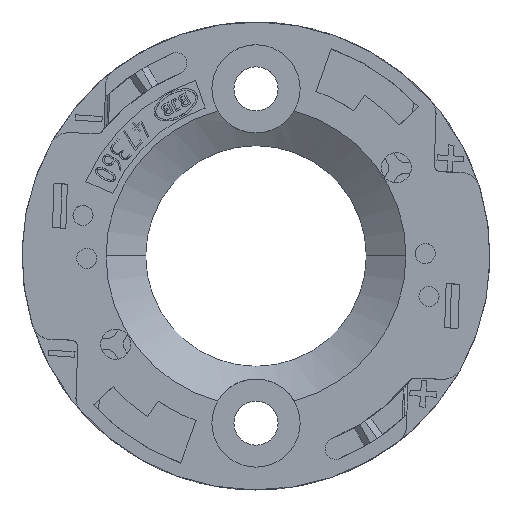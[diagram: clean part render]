
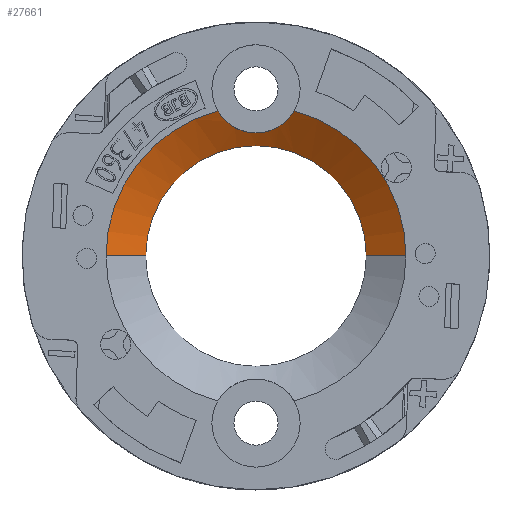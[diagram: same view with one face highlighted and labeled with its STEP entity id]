
A CAD part, top view. The second image highlights one B-rep face of the part: STEP entity #27661.
In plain terms, the highlighted free-form (B-spline) face has degree [7, 1] with [8, 2] control points.
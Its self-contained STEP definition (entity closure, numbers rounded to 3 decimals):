
#18581=CARTESIAN_POINT(' ',(2.855,10.846,3.));
#18582=VERTEX_POINT(' ',#18581);
#18596=CARTESIAN_POINT(' ',(0.,0.,3.));
#18601=DIRECTION(' ',(0.,0.,-1.));
#18606=DIRECTION(' ',(0.255,0.967,0.));
#18611=AXIS2_PLACEMENT_3D(' ',#18596,#18601,#18606);
#18616=CIRCLE('',#18611,11.215);
#18621=CARTESIAN_POINT(' ',(11.215,0.,3.));
#18622=VERTEX_POINT(' ',#18621);
#18626=EDGE_CURVE(' ',#18582,#18622,#18616,.T.);
#18816=CARTESIAN_POINT(' ',(-11.215,0.,3.));
#18817=VERTEX_POINT(' ',#18816);
#18831=CARTESIAN_POINT(' ',(0.,0.,3.));
#18836=DIRECTION(' ',(0.,0.,-1.));
#18841=DIRECTION(' ',(-1.,0.,0.));
#18846=AXIS2_PLACEMENT_3D(' ',#18831,#18836,#18841);
#18851=CIRCLE('',#18846,11.215);
#18856=CARTESIAN_POINT(' ',(-2.855,10.846,3.));
#18857=VERTEX_POINT(' ',#18856);
#18861=EDGE_CURVE(' ',#18817,#18857,#18851,.T.);
#27221=CARTESIAN_POINT(' ',(-2.855,10.846,3.));
#27226=CARTESIAN_POINT(' ',(-2.679,10.542,2.772));
#27231=CARTESIAN_POINT(' ',(-2.447,10.254,2.544));
#27236=CARTESIAN_POINT(' ',(-1.886,9.765,2.142));
#27241=CARTESIAN_POINT(' ',(-1.57,9.566,1.969));
#27246=CARTESIAN_POINT(' ',(-0.946,9.329,1.758));
#27251=CARTESIAN_POINT(' ',(-0.716,9.254,1.69));
#27256=CARTESIAN_POINT(' ',(0.084,9.177,1.619));
#27261=CARTESIAN_POINT(' ',(0.476,9.223,1.663));
#27266=CARTESIAN_POINT(' ',(1.106,9.367,1.792));
#27271=CARTESIAN_POINT(' ',(1.36,9.479,1.893));
#27276=CARTESIAN_POINT(' ',(2.149,9.921,2.274));
#27281=CARTESIAN_POINT(' ',(2.573,10.359,2.634));
#27286=CARTESIAN_POINT(' ',(2.855,10.846,3.));
#27291=B_SPLINE_CURVE_WITH_KNOTS('',3,(#27221,#27226,#27231,#27236,#27241,#27246,#27251,#27256,#27261,#27266,#27271,#27276,#27281,#27286),.UNSPECIFIED.,.F.,.U.,(4,2,2,2,2,2,4),(0.,0.173,0.346,0.446,0.546,0.69,1.),.UNSPECIFIED.);
#27296=EDGE_CURVE(' ',#18857,#18582,#27291,.T.);
#27406=CARTESIAN_POINT(' ',(11.215,0.,3.));
#27411=CARTESIAN_POINT(' ',(8.25,0.,1.));
#27416=CARTESIAN_POINT(' ',(11.215,5.033,3.));
#27421=CARTESIAN_POINT(' ',(8.25,3.703,1.));
#27426=CARTESIAN_POINT(' ',(8.579,10.062,3.));
#27431=CARTESIAN_POINT(' ',(6.311,7.402,1.));
#27436=CARTESIAN_POINT(' ',(3.313,13.464,3.));
#27441=CARTESIAN_POINT(' ',(2.437,9.904,1.));
#27446=CARTESIAN_POINT(' ',(-3.313,13.464,3.));
#27451=CARTESIAN_POINT(' ',(-2.437,9.904,1.));
#27456=CARTESIAN_POINT(' ',(-8.579,10.062,3.));
#27461=CARTESIAN_POINT(' ',(-6.311,7.402,1.));
#27466=CARTESIAN_POINT(' ',(-11.215,5.033,3.));
#27471=CARTESIAN_POINT(' ',(-8.25,3.703,1.));
#27476=CARTESIAN_POINT(' ',(-11.215,0.,3.));
#27481=CARTESIAN_POINT(' ',(-8.25,0.,1.));
#27486=B_SPLINE_SURFACE_WITH_KNOTS(' ',7,1,((#27406,#27411),(#27416,#27421),(#27426,#27431),(#27436,#27441),(#27446,#27451),(#27456,#27461),(#27466,#27471),(#27476,#27481)),.UNSPECIFIED.,.F.,.F.,.U.,(8,8),(2,2),(0.,1.),(0.,1.),.UNSPECIFIED.);
#27491=CARTESIAN_POINT(' ',(-11.215,0.,3.));
#27496=DIRECTION(' ',(0.829,0.,-0.559));
#27501=VECTOR(' ',#27496,1.);
#27506=LINE('',#27491,#27501);
#27511=CARTESIAN_POINT(' ',(-8.25,0.,1.));
#27512=VERTEX_POINT(' ',#27511);
#27516=EDGE_CURVE(' ',#18817,#27512,#27506,.T.);
#27521=ORIENTED_EDGE(' ',*,*,#27516,.T.);
#27526=CARTESIAN_POINT(' ',(0.,0.,1.));
#27531=DIRECTION(' ',(0.,0.,-1.));
#27536=DIRECTION(' ',(-1.,0.,0.));
#27541=AXIS2_PLACEMENT_3D(' ',#27526,#27531,#27536);
#27546=CIRCLE('',#27541,8.25);
#27551=CARTESIAN_POINT(' ',(0.,8.25,1.));
#27552=VERTEX_POINT(' ',#27551);
#27556=EDGE_CURVE(' ',#27512,#27552,#27546,.T.);
#27561=ORIENTED_EDGE(' ',*,*,#27556,.T.);
#27566=CARTESIAN_POINT(' ',(0.,0.,1.));
#27571=DIRECTION(' ',(0.,0.,-1.));
#27576=DIRECTION(' ',(0.,1.,0.));
#27581=AXIS2_PLACEMENT_3D(' ',#27566,#27571,#27576);
#27586=CIRCLE('',#27581,8.25);
#27591=CARTESIAN_POINT(' ',(8.25,0.,1.));
#27592=VERTEX_POINT(' ',#27591);
#27596=EDGE_CURVE(' ',#27552,#27592,#27586,.T.);
#27601=ORIENTED_EDGE(' ',*,*,#27596,.T.);
#27606=CARTESIAN_POINT(' ',(8.25,0.,1.));
#27611=DIRECTION(' ',(0.829,0.,0.559));
#27616=VECTOR(' ',#27611,1.);
#27621=LINE('',#27606,#27616);
#27626=EDGE_CURVE(' ',#27592,#18622,#27621,.T.);
#27631=ORIENTED_EDGE(' ',*,*,#27626,.T.);
#27636=ORIENTED_EDGE(' ',*,*,#18626,.F.);
#27641=ORIENTED_EDGE(' ',*,*,#27296,.F.);
#27646=ORIENTED_EDGE(' ',*,*,#18861,.F.);
#27651=EDGE_LOOP(' ',(#27521,#27561,#27601,#27631,#27636,#27641,#27646));
#27656=FACE_OUTER_BOUND(' ',#27651,.T.);
#27661=ADVANCED_FACE('',(#27656),#27486,.T.);
